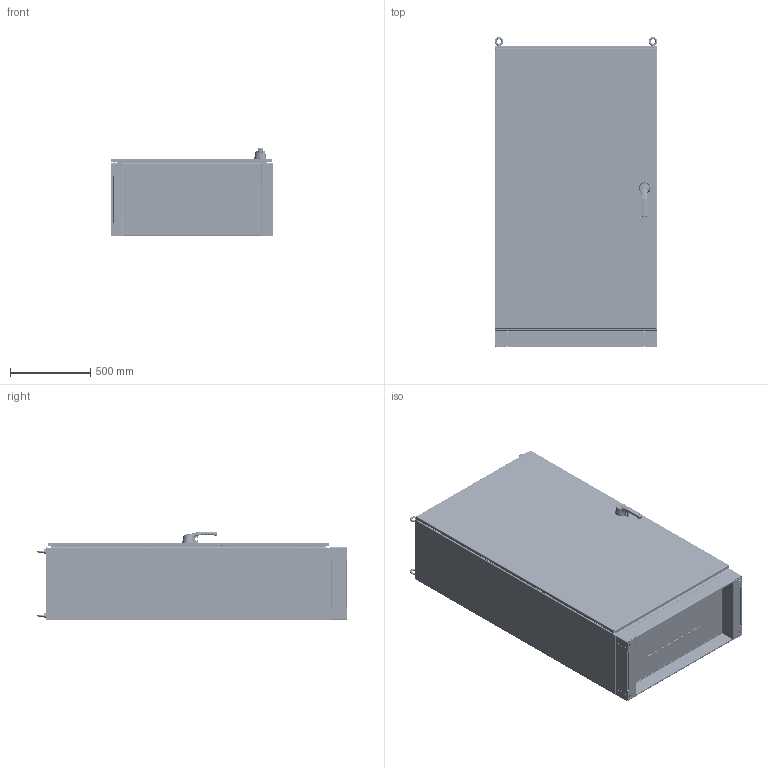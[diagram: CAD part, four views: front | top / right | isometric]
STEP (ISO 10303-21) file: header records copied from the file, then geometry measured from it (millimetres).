
FILE_DESCRIPTION (( 'STEP AP203' ), '1' );
FILE_NAME ('27117.step', '2014-11-19T11:27:20', ( 'admin' ), ( '' ), 'SwSTEP 2.0', 'SolidWorks 2010', '' );
FILE_SCHEMA (( 'CONFIG_CONTROL_DESIGN' ));
Products named in the file (68): 27117; 89115422; 89115415; 89115414; 89115417; 89115416; 89115419; 89115418; 89115421; 89115420; 89115311; 89113432_Integrated Rail; 89110064; 89113394; 89113393_FORMED; 89113392_100 mm; 89108877_FORMED - INSTALLED ; 89108752; 87846295_PEM WNS-M6-0 ---C; 89113438_Door Assy; 89113437_FIP LOCATION; 89113436_87954840; 87540455_8754055; 89113446_87954842; 60127102_After Weld; 89091664_875472289; 89101845; 60127163_60127163; 60127382_60127382; 87956539; 87922656; 89113400_89104049; 89113399_89104048; 27115001; 87570417; 89107932_87786283; 89107931; 89107930_Formed latch; 89104921; 22101002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
Assembly tree (111 placements, depth 5):
  27117
    89113430  x4
    89113435  x4
    60127137  x4
    89109289_INSTALLED
      89109284
        89109283
        99401226_After Weld
      89112635_Installed - Compressed   x2
      89112636_Installed - Compressed  x2
    87782126  x4
      60127215
        60127134_60127134
        60127199_60127199
        87543196  x2
        60127135_installed position SS  x2
      87540473_56906712
    89113444  x2
    89113438_Door Assy
      60127382_60127382  x2
      87956539  x2
      89091664_875472289  x4
      89101845  x4
      87570417
      89113437_FIP LOCATION
        87540455_8754055
        60127102_After Weld  x4
        89113446_87954842
        89113436_87954840
      60127163_60127163  x2
      89113400_89104049  x2
        89051323
        89113399_89104048
        27115001
        22318002
      89107932_87786283
        22318002
        89051323
        22101002
        89107931
          89104921
          89107930_Formed latch
      89087372_35124003
      87922656  x2
      87567405_87567405
        87567410
        87567417
        27155001
        87567421
        87566030
    89113395  x2
    89113433  x2
    89115422
      89110064  x4
      89115417
        89115416
      89113432_Integrated Rail  x2
      89113394  x2
        89108877_FORMED - INSTALLED 
          87846295_PEM WNS-M6-0 ---C
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Bounding box: 1016.31 x 1932.08 x 551.52 mm (x, y, z)
Volume: 17334695.1 mm3; surface area: 18029142 mm2
Topology: 122 solids, 122 shells, 15346 faces, 40601 edges, 25726 vertices
Faces by surface type: plane 7757, cylinder 5244, torus 1194, bspline 678, cone 399, sphere 74
Entity records: 234887 total; most frequent: CARTESIAN_POINT 76448, ORIENTED_EDGE 31318, DIRECTION 30731, EDGE_CURVE 15659, AXIS2_PLACEMENT_3D 11121, VERTEX_POINT 9822, VECTOR 8489, LINE 8489
